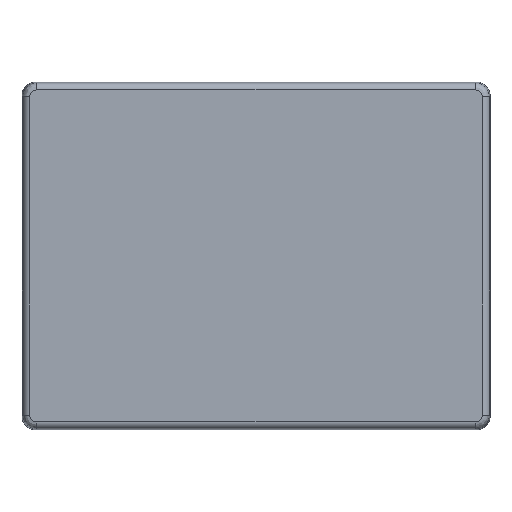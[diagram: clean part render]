
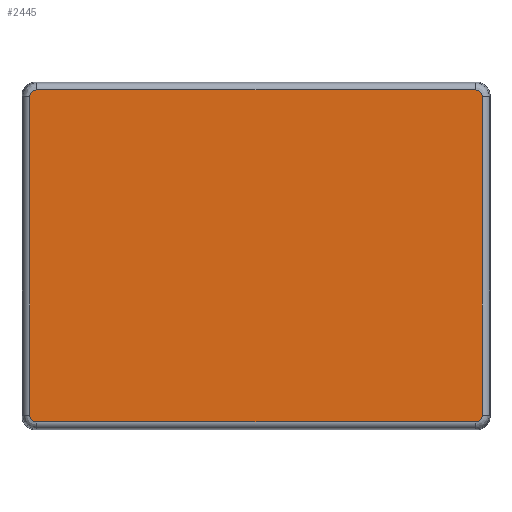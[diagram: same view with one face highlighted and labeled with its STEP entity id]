
A CAD part, top view. The second image highlights one B-rep face of the part: STEP entity #2445.
In plain terms, the highlighted planar face has unit normal (0, 0, 1).
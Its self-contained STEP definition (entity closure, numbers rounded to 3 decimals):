
#215=PLANE('',#2673);
#293=FACE_OUTER_BOUND('',#460,.T.);
#460=EDGE_LOOP('',(#1852,#1853,#1854,#1855,#1856,#1857,#1858,#1859));
#661=LINE('',#4045,#862);
#669=LINE('',#4100,#870);
#670=LINE('',#4106,#871);
#671=LINE('',#4108,#872);
#862=VECTOR('',#3107,10.);
#870=VECTOR('',#3139,10.);
#871=VECTOR('',#3146,10.);
#872=VECTOR('',#3149,10.);
#1018=ELLIPSE('',#2654,1.005,1.);
#1023=ELLIPSE('',#2666,1.005,1.);
#1026=ELLIPSE('',#2674,1.005,1.);
#1027=ELLIPSE('',#2675,1.005,1.);
#1161=VERTEX_POINT('',#4025);
#1164=VERTEX_POINT('',#4030);
#1168=VERTEX_POINT('',#4043);
#1170=VERTEX_POINT('',#4077);
#1173=VERTEX_POINT('',#4082);
#1178=VERTEX_POINT('',#4099);
#1179=VERTEX_POINT('',#4103);
#1180=VERTEX_POINT('',#4105);
#1403=EDGE_CURVE('',#1164,#1161,#1018,.T.);
#1410=EDGE_CURVE('',#1168,#1164,#661,.T.);
#1417=EDGE_CURVE('',#1173,#1170,#1023,.T.);
#1425=EDGE_CURVE('',#1170,#1178,#669,.T.);
#1427=EDGE_CURVE('',#1179,#1168,#1026,.T.);
#1428=EDGE_CURVE('',#1180,#1179,#670,.T.);
#1429=EDGE_CURVE('',#1178,#1180,#1027,.T.);
#1430=EDGE_CURVE('',#1161,#1173,#671,.T.);
#1852=ORIENTED_EDGE('',*,*,#1403,.F.);
#1853=ORIENTED_EDGE('',*,*,#1410,.F.);
#1854=ORIENTED_EDGE('',*,*,#1427,.F.);
#1855=ORIENTED_EDGE('',*,*,#1428,.F.);
#1856=ORIENTED_EDGE('',*,*,#1429,.F.);
#1857=ORIENTED_EDGE('',*,*,#1425,.F.);
#1858=ORIENTED_EDGE('',*,*,#1417,.F.);
#1859=ORIENTED_EDGE('',*,*,#1430,.F.);
#2445=ADVANCED_FACE('',(#293),#215,.T.);
#2654=AXIS2_PLACEMENT_3D('',#4032,#3092,#3093);
#2666=AXIS2_PLACEMENT_3D('',#4084,#3122,#3123);
#2673=AXIS2_PLACEMENT_3D('',#4102,#3142,#3143);
#2674=AXIS2_PLACEMENT_3D('',#4104,#3144,#3145);
#2675=AXIS2_PLACEMENT_3D('',#4107,#3147,#3148);
#3092=DIRECTION('center_axis',(0.,0.,-1.));
#3093=DIRECTION('ref_axis',(0.707,-0.707,0.));
#3107=DIRECTION('',(0.,-1.,0.));
#3122=DIRECTION('center_axis',(0.,0.,-1.));
#3123=DIRECTION('ref_axis',(-0.707,-0.707,0.));
#3139=DIRECTION('',(0.,1.,0.));
#3142=DIRECTION('center_axis',(0.,0.,1.));
#3143=DIRECTION('ref_axis',(1.,0.,0.));
#3144=DIRECTION('center_axis',(0.,0.,-1.));
#3145=DIRECTION('ref_axis',(0.707,0.707,0.));
#3146=DIRECTION('',(1.,0.,0.));
#3147=DIRECTION('center_axis',(0.,0.,-1.));
#3148=DIRECTION('ref_axis',(-0.707,0.707,0.));
#3149=DIRECTION('',(-1.,0.,0.));
#4025=CARTESIAN_POINT('',(31.719,-24.017,3.));
#4030=CARTESIAN_POINT('',(32.717,-23.019,3.));
#4032=CARTESIAN_POINT('Origin',(31.714,-23.014,3.));
#4043=CARTESIAN_POINT('',(32.717,23.019,3.));
#4045=CARTESIAN_POINT('',(32.717,6.288,3.));
#4077=CARTESIAN_POINT('',(-32.717,-23.019,3.));
#4082=CARTESIAN_POINT('',(-31.719,-24.017,3.));
#4084=CARTESIAN_POINT('Origin',(-31.714,-23.014,3.));
#4099=CARTESIAN_POINT('',(-32.717,23.019,3.));
#4100=CARTESIAN_POINT('',(-32.717,-6.288,3.));
#4102=CARTESIAN_POINT('Origin',(0.,0.,3.));
#4103=CARTESIAN_POINT('',(31.719,24.017,3.));
#4104=CARTESIAN_POINT('Origin',(31.714,23.014,3.));
#4105=CARTESIAN_POINT('',(-31.719,24.017,3.));
#4106=CARTESIAN_POINT('',(-8.463,24.017,3.));
#4107=CARTESIAN_POINT('Origin',(-31.714,23.014,3.));
#4108=CARTESIAN_POINT('',(8.463,-24.017,3.));
